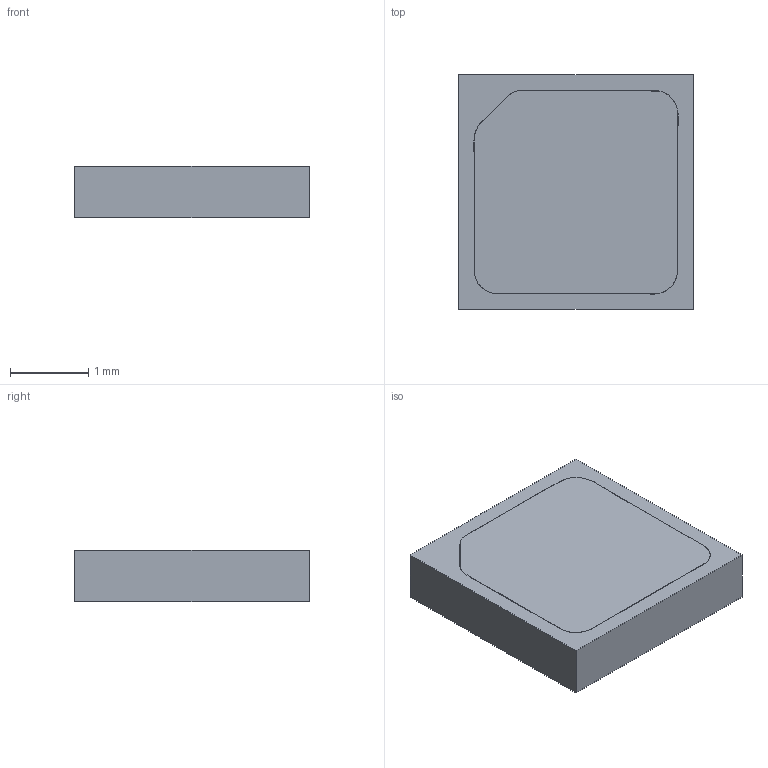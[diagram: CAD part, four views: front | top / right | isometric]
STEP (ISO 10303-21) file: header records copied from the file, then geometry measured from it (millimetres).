
FILE_DESCRIPTION(/* description */ (''),/* implementation_level */ '2;1');
FILE_NAME(/* name */ '180704_30XZ+.stp',/* time_stamp */ '2018-07-04T09:36:58+09:00',/* author */ (''),/* organization */ (''),/* preprocessor_version */ 'ST-DEVELOPER v15',/* originating_system */ 'SIEMENS PLM Software NX 8.5',/* authorisation */ '');
FILE_SCHEMA (('AUTOMOTIVE_DESIGN { 1 0 10303 214 3 1 1 1 }'));
Length unit declared in the file: millimetre
Products named in the file (1): model42
Bounding box: 3 x 3 x 0.66 mm (x, y, z)
Surface area: 67.3 mm2
Topology: 4 solids, 4 shells, 69 faces, 170 edges, 112 vertices
Faces by surface type: plane 51, cylinder 16, bspline 1, extrusion 1
Entity records: 2462 total; most frequent: CARTESIAN_POINT 773, ORIENTED_EDGE 334, DIRECTION 329, EDGE_CURVE 167, VECTOR 129, LINE 128, VERTEX_POINT 111, AXIS2_PLACEMENT_3D 100
